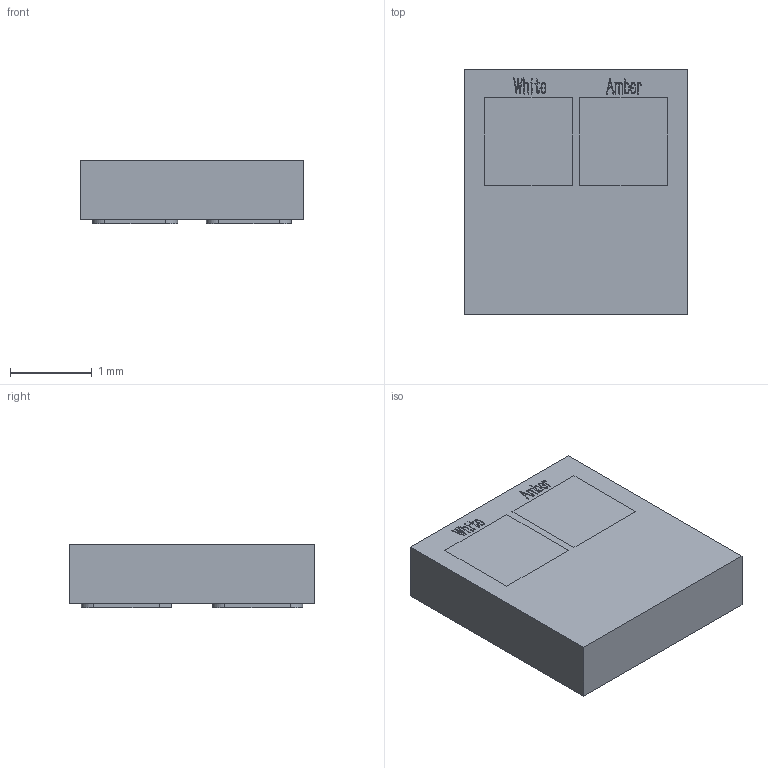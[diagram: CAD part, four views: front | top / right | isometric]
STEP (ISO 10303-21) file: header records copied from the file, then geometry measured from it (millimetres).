
FILE_DESCRIPTION (( 'STEP AP214' ), '1' );
FILE_NAME ('ABL2.STEP', '2024-01-24T18:46:27', ( '' ), ( '' ), 'SwSTEP 2.0', 'SolidWorks 2022', '' );
FILE_SCHEMA (( 'AUTOMOTIVE_DESIGN' ));
Length unit declared in the file: millimetre
Products named in the file (1): ABL2
Bounding box: 2.73 x 3 x 0.78 mm (x, y, z)
Volume: 6.2 mm3; surface area: 25.6 mm2
Topology: 1 solids, 1 shells, 283 faces, 788 edges, 528 vertices
Faces by surface type: plane 171, bspline 98, cylinder 14
Entity records: 16425 total; most frequent: CARTESIAN_POINT 6650, ORIENTED_EDGE 1576, DIRECTION 992, EDGE_CURVE 788, LINE 564, VECTOR 564, VERTEX_POINT 528, EDGE_LOOP 304
